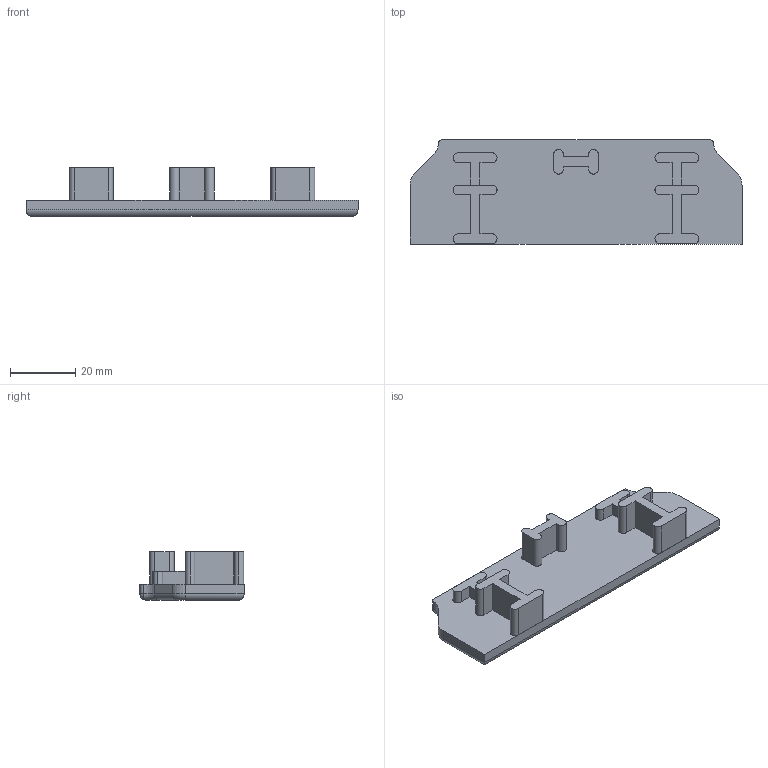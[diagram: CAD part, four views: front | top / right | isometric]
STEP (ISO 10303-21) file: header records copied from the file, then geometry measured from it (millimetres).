
FILE_DESCRIPTION (( 'STEP AP214' ), '1' );
FILE_NAME ('EMEPR.step', '2017-04-05T07:54:59', ( '' ), ( '' ), 'SwSTEP 2.0', 'SolidWorks 2015', '' );
FILE_SCHEMA (( 'AUTOMOTIVE_DESIGN' ));
Length unit declared in the file: millimetre
Products named in the file (1): EMEPR
Bounding box: 102 x 32 x 15 mm (x, y, z)
Volume: 18836 mm3; surface area: 9672.8 mm2
Topology: 1 solids, 1 shells, 87 faces, 234 edges, 150 vertices
Faces by surface type: plane 47, cylinder 34, torus 4, bspline 2
Entity records: 2856 total; most frequent: CARTESIAN_POINT 614, DIRECTION 464, ORIENTED_EDGE 464, EDGE_CURVE 232, VECTOR 160, LINE 160, AXIS2_PLACEMENT_3D 152, VERTEX_POINT 150
